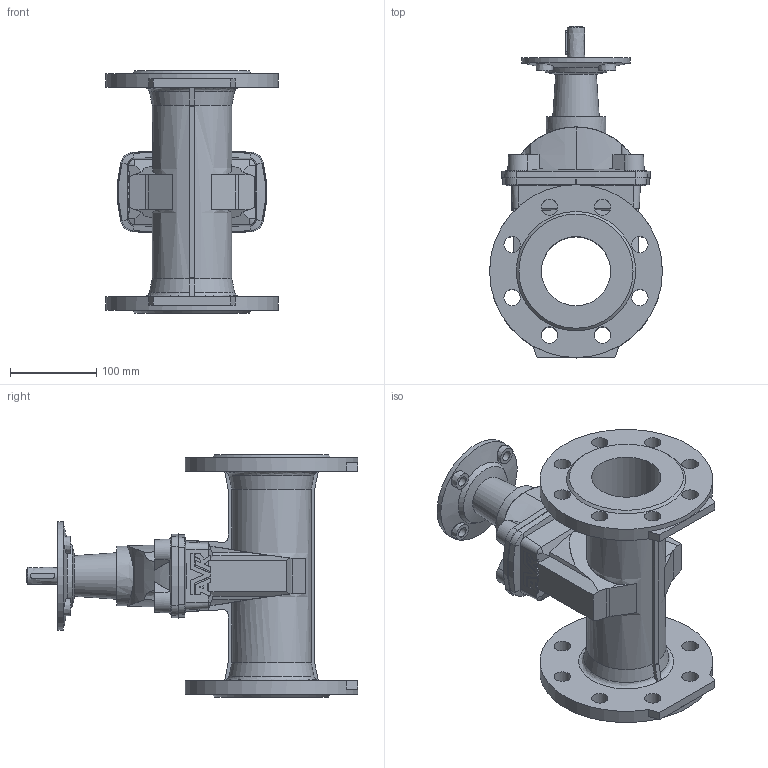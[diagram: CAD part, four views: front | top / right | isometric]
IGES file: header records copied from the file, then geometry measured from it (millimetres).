
Start section: SolidWorks IGES file using analytic representation for surfaces
Global section: file name: \\avksan2\techshare\PBM outline export from Enovia\O_15_72_DN080_X1XXX099_AA0.igs; native system: SolidWorks 2012; preprocessor: SolidWorks 2012; author: pbm; date: 170310.095102; units: inch
Bounding box: 200 x 383.85 x 280 mm (x, y, z)
Surface area: 385878.1 mm2 (no closed solid volume)
Topology: 0 solids, 0 shells, 298 faces, 1664 edges, 1592 vertices
Faces by surface type: revolution 162, bspline 136
